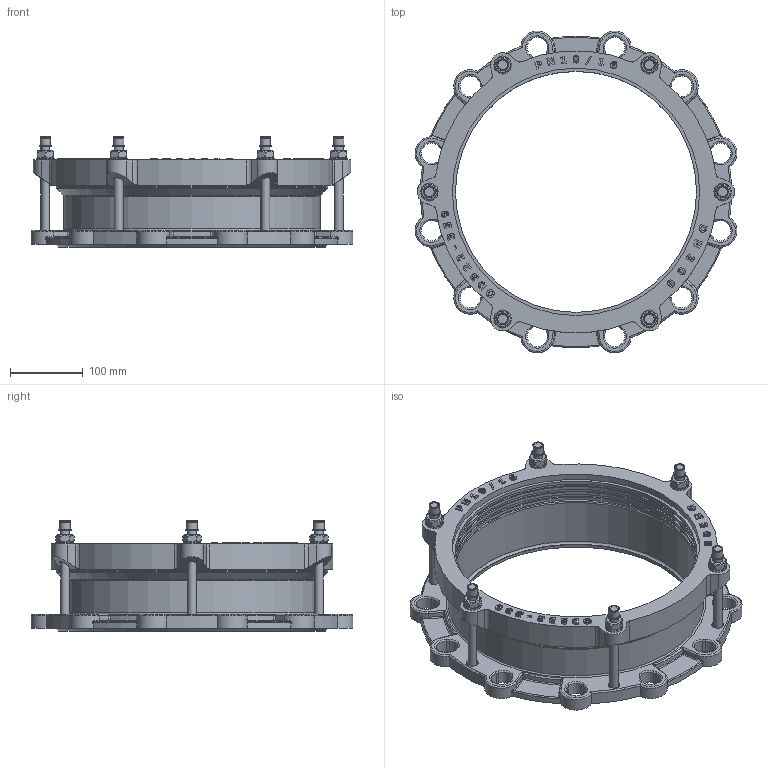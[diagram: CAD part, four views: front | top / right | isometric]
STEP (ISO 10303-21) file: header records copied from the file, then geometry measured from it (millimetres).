
FILE_DESCRIPTION(('STEP AP203'), '1');
FILE_NAME('Ôëàíöåâûé àäàïòåð', '', ('UNSPECIFIED'), ('UNSPECIFIED'), 'C3D Converter', 'C3D Toolkit', '');
FILE_SCHEMA(('CONFIG_CONTROL_DESIGN'));
Length unit declared in the file: millimetre
Assembly tree (27 placements, depth 2):
  (unnamed)
    (unnamed)
    (unnamed)  x6
    (unnamed)  x6
    (unnamed)  x6
    (unnamed)  x6
    (unnamed)
    (unnamed)
Bounding box: 441.02 x 441.02 x 151.2 mm (x, y, z)
Volume: 2644194.4 mm3; surface area: 680300.2 mm2
Topology: 27 solids, 27 shells, 1414 faces, 3572 edges, 2200 vertices
Faces by surface type: extrusion 427, plane 418, cylinder 326, torus 113, bspline 48, cone 46, sphere 36
Full cylindrical faces by diameter (mm): 12 x18, 13 x6, 13.478 x1, 14 x12, 14.4 x6, 16.8 x6, 24 x6, 330.5 x5, 334.75 x3, 339 x2, 345 x1, 351 x2, 372 x1, 375 x2
Entity records: 52569 total; most frequent: CARTESIAN_POINT 19397, ORIENTED_EDGE 6050, DIRECTION 4679, EDGE_CURVE 3025, VERTEX_POINT 1938, VECTOR 1707, AXIS2_PLACEMENT_3D 1486, B_SPLINE_CURVE_WITH_KNOTS 1425
